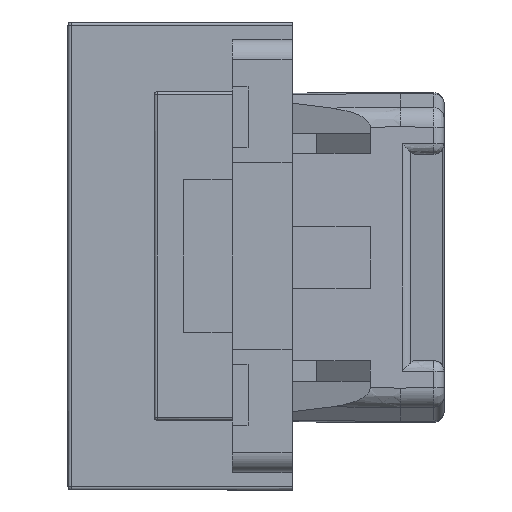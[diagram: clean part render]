
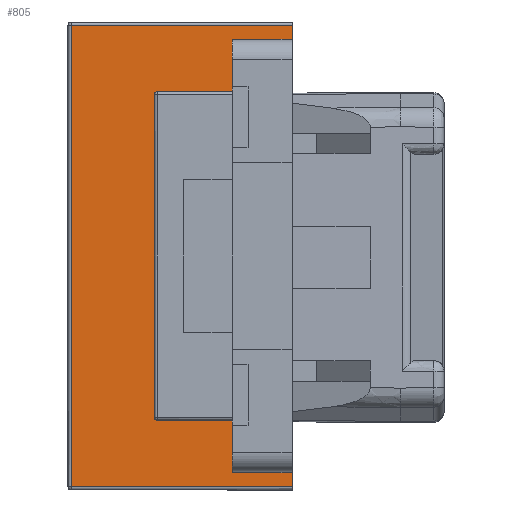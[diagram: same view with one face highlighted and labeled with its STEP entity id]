
A CAD part, front view. The second image highlights one B-rep face of the part: STEP entity #805.
In plain terms, the highlighted free-form (B-spline) face has degree [1, 1] with [2, 2] control points.
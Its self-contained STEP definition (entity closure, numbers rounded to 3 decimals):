
#114 = EDGE_CURVE('',#115,#117,#119,.T.);
#115 = VERTEX_POINT('',#116);
#116 = CARTESIAN_POINT('',(19.129,14.04,-4.17));
#117 = VERTEX_POINT('',#118);
#118 = CARTESIAN_POINT('',(19.279,14.04,-4.32));
#119 = B_SPLINE_CURVE_WITH_KNOTS('',5,(#120,#121,#122,#123,#124,#125,
    #126,#127,#128),.UNSPECIFIED.,.F.,.F.,(6,3,6),(0.,0.785,
    1.571),.UNSPECIFIED.);
#120 = CARTESIAN_POINT('',(19.129,14.04,-4.17));
#121 = CARTESIAN_POINT('',(19.153,14.04,-4.17));
#122 = CARTESIAN_POINT('',(19.176,14.04,
    -4.175));
#123 = CARTESIAN_POINT('',(19.199,14.04,
    -4.184));
#124 = CARTESIAN_POINT('',(19.239,14.04,
    -4.211));
#125 = CARTESIAN_POINT('',(19.265,14.04,
    -4.251));
#126 = CARTESIAN_POINT('',(19.275,14.04,
    -4.273));
#127 = CARTESIAN_POINT('',(19.279,14.04,
    -4.296));
#128 = CARTESIAN_POINT('',(19.279,14.04,-4.32));
#332 = EDGE_CURVE('',#333,#335,#337,.T.);
#333 = VERTEX_POINT('',#334);
#334 = CARTESIAN_POINT('',(3.379,14.04,-4.32));
#335 = VERTEX_POINT('',#336);
#336 = CARTESIAN_POINT('',(3.529,14.04,-4.17));
#337 = B_SPLINE_CURVE_WITH_KNOTS('',5,(#338,#339,#340,#341,#342,#343,
    #344,#345,#346),.UNSPECIFIED.,.F.,.F.,(6,3,6),(0.,0.785,
    1.571),.UNSPECIFIED.);
#338 = CARTESIAN_POINT('',(3.379,14.04,-4.32));
#339 = CARTESIAN_POINT('',(3.379,14.04,
    -4.296));
#340 = CARTESIAN_POINT('',(3.384,14.04,
    -4.273));
#341 = CARTESIAN_POINT('',(3.393,14.04,
    -4.251));
#342 = CARTESIAN_POINT('',(3.42,14.04,
    -4.211));
#343 = CARTESIAN_POINT('',(3.46,14.04,
    -4.184));
#344 = CARTESIAN_POINT('',(3.482,14.04,-4.175
    ));
#345 = CARTESIAN_POINT('',(3.506,14.04,-4.17));
#346 = CARTESIAN_POINT('',(3.529,14.04,-4.17));
#417 = EDGE_CURVE('',#418,#117,#420,.T.);
#418 = VERTEX_POINT('',#419);
#419 = CARTESIAN_POINT('',(19.279,14.04,-7.95));
#420 = B_SPLINE_CURVE_WITH_KNOTS('',5,(#421,#422,#423,#424,#425,#426),
  .UNSPECIFIED.,.F.,.F.,(6,6),(0.,3.63),.PIECEWISE_BEZIER_KNOTS.);
#421 = CARTESIAN_POINT('',(19.279,14.04,-7.95));
#422 = CARTESIAN_POINT('',(19.279,14.04,-7.224));
#423 = CARTESIAN_POINT('',(19.279,14.04,-6.498));
#424 = CARTESIAN_POINT('',(19.279,14.04,-5.772));
#425 = CARTESIAN_POINT('',(19.279,14.04,-5.046));
#426 = CARTESIAN_POINT('',(19.279,14.04,-4.32));
#445 = EDGE_CURVE('',#115,#335,#446,.T.);
#446 = B_SPLINE_CURVE_WITH_KNOTS('',5,(#447,#448,#449,#450,#451,#452),
  .UNSPECIFIED.,.F.,.F.,(6,6),(0.,15.6),.PIECEWISE_BEZIER_KNOTS.);
#447 = CARTESIAN_POINT('',(19.129,14.04,-4.17));
#448 = CARTESIAN_POINT('',(16.009,14.04,-4.17));
#449 = CARTESIAN_POINT('',(12.889,14.04,-4.17));
#450 = CARTESIAN_POINT('',(9.769,14.04,-4.17));
#451 = CARTESIAN_POINT('',(6.649,14.04,-4.17));
#452 = CARTESIAN_POINT('',(3.529,14.04,-4.17));
#565 = VERTEX_POINT('',#566);
#566 = CARTESIAN_POINT('',(3.379,14.04,-7.95));
#575 = EDGE_CURVE('',#576,#565,#578,.T.);
#576 = VERTEX_POINT('',#577);
#577 = CARTESIAN_POINT('',(0.842,14.04,-7.95));
#578 = B_SPLINE_CURVE_WITH_KNOTS('',5,(#579,#580,#581,#582,#583,#584),
  .UNSPECIFIED.,.F.,.F.,(6,6),(0.,2.538),
  .PIECEWISE_BEZIER_KNOTS.);
#579 = CARTESIAN_POINT('',(0.842,14.04,-7.95));
#580 = CARTESIAN_POINT('',(1.349,14.04,-7.95));
#581 = CARTESIAN_POINT('',(1.857,14.04,-7.95));
#582 = CARTESIAN_POINT('',(2.364,14.04,-7.95));
#583 = CARTESIAN_POINT('',(2.872,14.04,-7.95));
#584 = CARTESIAN_POINT('',(3.379,14.04,-7.95));
#781 = VERTEX_POINT('',#782);
#782 = CARTESIAN_POINT('',(21.817,14.04,-7.95));
#791 = EDGE_CURVE('',#418,#781,#792,.T.);
#792 = B_SPLINE_CURVE_WITH_KNOTS('',5,(#793,#794,#795,#796,#797,#798),
  .UNSPECIFIED.,.F.,.F.,(6,6),(0.,2.538),
  .PIECEWISE_BEZIER_KNOTS.);
#793 = CARTESIAN_POINT('',(19.279,14.04,-7.95));
#794 = CARTESIAN_POINT('',(19.787,14.04,-7.95));
#795 = CARTESIAN_POINT('',(20.294,14.04,-7.95));
#796 = CARTESIAN_POINT('',(20.802,14.04,-7.95));
#797 = CARTESIAN_POINT('',(21.309,14.04,-7.95));
#798 = CARTESIAN_POINT('',(21.817,14.04,-7.95));
#805 = ADVANCED_FACE('',(#806),#898,.T.);
#806 = FACE_BOUND('',#807,.T.);
#807 = EDGE_LOOP('',(#808,#821,#832,#841,#842,#843,#844,#845,#846,#855,
    #856,#867,#878,#889));
#808 = ORIENTED_EDGE('',*,*,#809,.F.);
#809 = EDGE_CURVE('',#810,#812,#814,.T.);
#810 = VERTEX_POINT('',#811);
#811 = CARTESIAN_POINT('',(22.504,14.04,-10.85));
#812 = VERTEX_POINT('',#813);
#813 = CARTESIAN_POINT('',(22.504,14.04,-0.15));
#814 = B_SPLINE_CURVE_WITH_KNOTS('',5,(#815,#816,#817,#818,#819,#820),
  .UNSPECIFIED.,.F.,.F.,(6,6),(0.,10.7),.PIECEWISE_BEZIER_KNOTS.);
#815 = CARTESIAN_POINT('',(22.504,14.04,-10.85));
#816 = CARTESIAN_POINT('',(22.504,14.04,-8.71));
#817 = CARTESIAN_POINT('',(22.504,14.04,-6.57));
#818 = CARTESIAN_POINT('',(22.504,14.04,-4.43));
#819 = CARTESIAN_POINT('',(22.504,14.04,-2.29));
#820 = CARTESIAN_POINT('',(22.504,14.04,-0.15));
#821 = ORIENTED_EDGE('',*,*,#822,.F.);
#822 = EDGE_CURVE('',#823,#810,#825,.T.);
#823 = VERTEX_POINT('',#824);
#824 = CARTESIAN_POINT('',(21.817,14.04,-10.85));
#825 = B_SPLINE_CURVE_WITH_KNOTS('',5,(#826,#827,#828,#829,#830,#831),
  .UNSPECIFIED.,.F.,.F.,(6,6),(0.,0.687),
  .PIECEWISE_BEZIER_KNOTS.);
#826 = CARTESIAN_POINT('',(21.817,14.04,-10.85));
#827 = CARTESIAN_POINT('',(21.954,14.04,-10.85));
#828 = CARTESIAN_POINT('',(22.092,14.04,-10.85));
#829 = CARTESIAN_POINT('',(22.229,14.04,-10.85));
#830 = CARTESIAN_POINT('',(22.367,14.04,-10.85));
#831 = CARTESIAN_POINT('',(22.504,14.04,-10.85));
#832 = ORIENTED_EDGE('',*,*,#833,.T.);
#833 = EDGE_CURVE('',#823,#781,#834,.T.);
#834 = B_SPLINE_CURVE_WITH_KNOTS('',5,(#835,#836,#837,#838,#839,#840),
  .UNSPECIFIED.,.F.,.F.,(6,6),(0.,2.9),.PIECEWISE_BEZIER_KNOTS.);
#835 = CARTESIAN_POINT('',(21.817,14.04,-10.85));
#836 = CARTESIAN_POINT('',(21.817,14.04,-10.27));
#837 = CARTESIAN_POINT('',(21.817,14.04,-9.69));
#838 = CARTESIAN_POINT('',(21.817,14.04,-9.11));
#839 = CARTESIAN_POINT('',(21.817,14.04,-8.53));
#840 = CARTESIAN_POINT('',(21.817,14.04,-7.95));
#841 = ORIENTED_EDGE('',*,*,#791,.F.);
#842 = ORIENTED_EDGE('',*,*,#417,.T.);
#843 = ORIENTED_EDGE('',*,*,#114,.F.);
#844 = ORIENTED_EDGE('',*,*,#445,.T.);
#845 = ORIENTED_EDGE('',*,*,#332,.F.);
#846 = ORIENTED_EDGE('',*,*,#847,.T.);
#847 = EDGE_CURVE('',#333,#565,#848,.T.);
#848 = B_SPLINE_CURVE_WITH_KNOTS('',5,(#849,#850,#851,#852,#853,#854),
  .UNSPECIFIED.,.F.,.F.,(6,6),(0.,3.63),.PIECEWISE_BEZIER_KNOTS.);
#849 = CARTESIAN_POINT('',(3.379,14.04,-4.32));
#850 = CARTESIAN_POINT('',(3.379,14.04,-5.046));
#851 = CARTESIAN_POINT('',(3.379,14.04,-5.772));
#852 = CARTESIAN_POINT('',(3.379,14.04,-6.498));
#853 = CARTESIAN_POINT('',(3.379,14.04,-7.224));
#854 = CARTESIAN_POINT('',(3.379,14.04,-7.95));
#855 = ORIENTED_EDGE('',*,*,#575,.F.);
#856 = ORIENTED_EDGE('',*,*,#857,.F.);
#857 = EDGE_CURVE('',#858,#576,#860,.T.);
#858 = VERTEX_POINT('',#859);
#859 = CARTESIAN_POINT('',(0.842,14.04,-10.85));
#860 = B_SPLINE_CURVE_WITH_KNOTS('',5,(#861,#862,#863,#864,#865,#866),
  .UNSPECIFIED.,.F.,.F.,(6,6),(0.,2.9),.PIECEWISE_BEZIER_KNOTS.);
#861 = CARTESIAN_POINT('',(0.842,14.04,-10.85));
#862 = CARTESIAN_POINT('',(0.842,14.04,-10.27));
#863 = CARTESIAN_POINT('',(0.842,14.04,-9.69));
#864 = CARTESIAN_POINT('',(0.842,14.04,-9.11));
#865 = CARTESIAN_POINT('',(0.842,14.04,-8.53));
#866 = CARTESIAN_POINT('',(0.842,14.04,-7.95));
#867 = ORIENTED_EDGE('',*,*,#868,.T.);
#868 = EDGE_CURVE('',#858,#869,#871,.T.);
#869 = VERTEX_POINT('',#870);
#870 = CARTESIAN_POINT('',(0.154,14.04,-10.85));
#871 = B_SPLINE_CURVE_WITH_KNOTS('',5,(#872,#873,#874,#875,#876,#877),
  .UNSPECIFIED.,.F.,.F.,(6,6),(0.,0.687),
  .PIECEWISE_BEZIER_KNOTS.);
#872 = CARTESIAN_POINT('',(0.842,14.04,-10.85));
#873 = CARTESIAN_POINT('',(0.704,14.04,-10.85));
#874 = CARTESIAN_POINT('',(0.567,14.04,-10.85));
#875 = CARTESIAN_POINT('',(0.429,14.04,-10.85));
#876 = CARTESIAN_POINT('',(0.292,14.04,-10.85));
#877 = CARTESIAN_POINT('',(0.154,14.04,-10.85));
#878 = ORIENTED_EDGE('',*,*,#879,.F.);
#879 = EDGE_CURVE('',#880,#869,#882,.T.);
#880 = VERTEX_POINT('',#881);
#881 = CARTESIAN_POINT('',(0.154,14.04,-0.15));
#882 = B_SPLINE_CURVE_WITH_KNOTS('',5,(#883,#884,#885,#886,#887,#888),
  .UNSPECIFIED.,.F.,.F.,(6,6),(0.,10.7),.PIECEWISE_BEZIER_KNOTS.);
#883 = CARTESIAN_POINT('',(0.154,14.04,-0.15));
#884 = CARTESIAN_POINT('',(0.154,14.04,-2.29));
#885 = CARTESIAN_POINT('',(0.154,14.04,-4.43));
#886 = CARTESIAN_POINT('',(0.154,14.04,-6.57));
#887 = CARTESIAN_POINT('',(0.154,14.04,-8.71));
#888 = CARTESIAN_POINT('',(0.154,14.04,-10.85));
#889 = ORIENTED_EDGE('',*,*,#890,.F.);
#890 = EDGE_CURVE('',#812,#880,#891,.T.);
#891 = B_SPLINE_CURVE_WITH_KNOTS('',5,(#892,#893,#894,#895,#896,#897),
  .UNSPECIFIED.,.F.,.F.,(6,6),(0.,22.35),
  .PIECEWISE_BEZIER_KNOTS.);
#892 = CARTESIAN_POINT('',(22.504,14.04,-0.15));
#893 = CARTESIAN_POINT('',(18.034,14.04,-0.15));
#894 = CARTESIAN_POINT('',(13.564,14.04,-0.15));
#895 = CARTESIAN_POINT('',(9.094,14.04,-0.15));
#896 = CARTESIAN_POINT('',(4.624,14.04,-0.15));
#897 = CARTESIAN_POINT('',(0.154,14.04,-0.15));
#898 = B_SPLINE_SURFACE_WITH_KNOTS('',1,1,(
    (#899,#900)
    ,(#901,#902
    )),.UNSPECIFIED.,.F.,.F.,.F.,(2,2),(2,2),(0.,2.089),(0.,1.)
  ,.PIECEWISE_BEZIER_KNOTS.);
#899 = CARTESIAN_POINT('',(22.504,14.04,-10.85));
#900 = CARTESIAN_POINT('',(22.504,14.04,-0.15));
#901 = CARTESIAN_POINT('',(0.154,14.04,-10.85));
#902 = CARTESIAN_POINT('',(0.154,14.04,-0.15));
